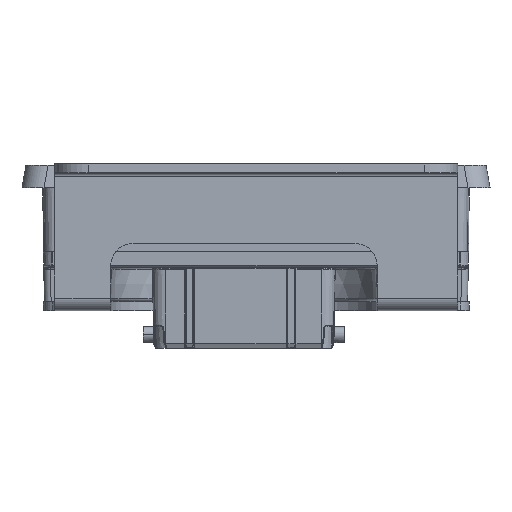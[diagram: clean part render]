
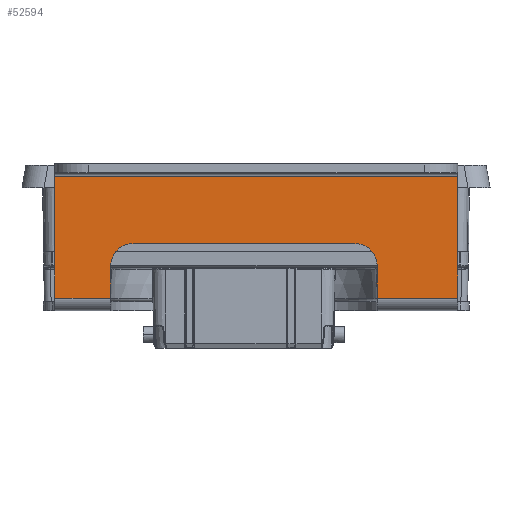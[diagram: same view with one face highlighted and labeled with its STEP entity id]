
A CAD part, front view. The second image highlights one B-rep face of the part: STEP entity #52594.
In plain terms, the highlighted planar face has unit normal (0, -1, 0) as drawn and (0, 0, -1) by its records, which use the part's own axes.
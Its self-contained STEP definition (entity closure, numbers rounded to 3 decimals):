
#51259=CARTESIAN_POINT('',(22.,22.75,-34.));
#51260=DIRECTION('',(0.,0.,1.));
#51261=DIRECTION('',(0.,-1.,0.));
#51262=AXIS2_PLACEMENT_3D('',#51259,#51260,#51261);
#51268=DIRECTION('',(0.,-1.,0.));
#51269=VECTOR('',#51268,7.2);
#51270=CARTESIAN_POINT('',(27.,29.95,-34.));
#51271=LINE('',#51270,#51269);
#51272=DIRECTION('',(1.,0.,0.));
#51273=VECTOR('',#51272,49.5);
#51274=CARTESIAN_POINT('',(-27.5,17.75,-34.));
#51275=LINE('',#51274,#51273);
#51276=DIRECTION('',(0.,-1.,0.));
#51277=VECTOR('',#51276,7.2);
#51278=CARTESIAN_POINT('',(-32.5,29.95,-34.));
#51279=LINE('',#51278,#51277);
#51280=DIRECTION('',(1.,0.,0.));
#51281=VECTOR('',#51280,12.5);
#51282=CARTESIAN_POINT('',(-45.,29.95,-34.));
#51283=LINE('',#51282,#51281);
#51284=DIRECTION('',(-1.,0.,0.));
#51285=VECTOR('',#51284,90.);
#51286=CARTESIAN_POINT('',(45.,2.8,-34.));
#51287=LINE('',#51286,#51285);
#51288=DIRECTION('',(1.,0.,0.));
#51289=VECTOR('',#51288,18.);
#51290=CARTESIAN_POINT('',(27.,29.95,-34.));
#51291=LINE('',#51290,#51289);
#51297=CARTESIAN_POINT('',(-27.5,22.75,-34.));
#51298=DIRECTION('',(0.,0.,1.));
#51299=DIRECTION('',(-1.,0.,0.));
#51300=AXIS2_PLACEMENT_3D('',#51297,#51298,#51299);
#51336=DIRECTION('',(0.,-1.,0.));
#51337=VECTOR('',#51336,27.15);
#51338=CARTESIAN_POINT('',(-45.,29.95,-34.));
#51339=LINE('',#51338,#51337);
#51778=DIRECTION('',(0.,-1.,0.));
#51779=VECTOR('',#51778,27.15);
#51780=CARTESIAN_POINT('',(45.,29.95,-34.));
#51781=LINE('',#51780,#51779);
#52166=CARTESIAN_POINT('',(-45.,29.95,-34.));
#52168=VERTEX_POINT('',#52166);
#52171=CARTESIAN_POINT('',(45.,29.95,-34.));
#52173=VERTEX_POINT('',#52171);
#52174=CARTESIAN_POINT('',(45.,2.8,-34.));
#52175=CARTESIAN_POINT('',(-45.,2.8,-34.));
#52176=VERTEX_POINT('',#52174);
#52177=VERTEX_POINT('',#52175);
#52246=CARTESIAN_POINT('',(27.,29.95,-34.));
#52248=VERTEX_POINT('',#52246);
#52250=CARTESIAN_POINT('',(-32.5,29.95,-34.));
#52252=VERTEX_POINT('',#52250);
#52271=CARTESIAN_POINT('',(27.,22.75,-34.));
#52273=VERTEX_POINT('',#52271);
#52275=CARTESIAN_POINT('',(22.,17.75,-34.));
#52277=VERTEX_POINT('',#52275);
#52279=CARTESIAN_POINT('',(-27.5,17.75,-34.));
#52281=VERTEX_POINT('',#52279);
#52283=CARTESIAN_POINT('',(-32.5,22.75,-34.));
#52285=VERTEX_POINT('',#52283);
#52570=CARTESIAN_POINT('',(-45.,30.75,-34.));
#52571=DIRECTION('',(0.,0.,1.));
#52572=DIRECTION('',(0.,-1.,0.));
#52573=AXIS2_PLACEMENT_3D('',#52570,#52571,#52572);
#52574=PLANE('',#52573);
#52575=ORIENTED_EDGE('',*,*,#52562,.T.);
#52576=ORIENTED_EDGE('',*,*,#52551,.F.);
#52577=ORIENTED_EDGE('',*,*,#52537,.F.);
#52579=ORIENTED_EDGE('',*,*,#52578,.F.);
#52581=ORIENTED_EDGE('',*,*,#52580,.F.);
#52583=ORIENTED_EDGE('',*,*,#52582,.F.);
#52585=ORIENTED_EDGE('',*,*,#52584,.T.);
#52587=ORIENTED_EDGE('',*,*,#52586,.F.);
#52589=ORIENTED_EDGE('',*,*,#52588,.F.);
#52591=ORIENTED_EDGE('',*,*,#52590,.F.);
#52592=EDGE_LOOP('',(#52575,#52576,#52577,#52579,#52581,#52583,#52585,#52587,
#52589,#52591));
#52593=FACE_OUTER_BOUND('',#52592,.F.);
#52594=ADVANCED_FACE('',(#52593),#52574,.F.);
#51263=CIRCLE('',#51262,5.);
#51301=CIRCLE('',#51300,5.);
#52537=EDGE_CURVE('',#52281,#52277,#51275,.T.);
#52551=EDGE_CURVE('',#52277,#52273,#51263,.T.);
#52562=EDGE_CURVE('',#52248,#52273,#51271,.T.);
#52578=EDGE_CURVE('',#52285,#52281,#51301,.T.);
#52580=EDGE_CURVE('',#52252,#52285,#51279,.T.);
#52582=EDGE_CURVE('',#52168,#52252,#51283,.T.);
#52584=EDGE_CURVE('',#52168,#52177,#51339,.T.);
#52586=EDGE_CURVE('',#52176,#52177,#51287,.T.);
#52588=EDGE_CURVE('',#52173,#52176,#51781,.T.);
#52590=EDGE_CURVE('',#52248,#52173,#51291,.T.);
